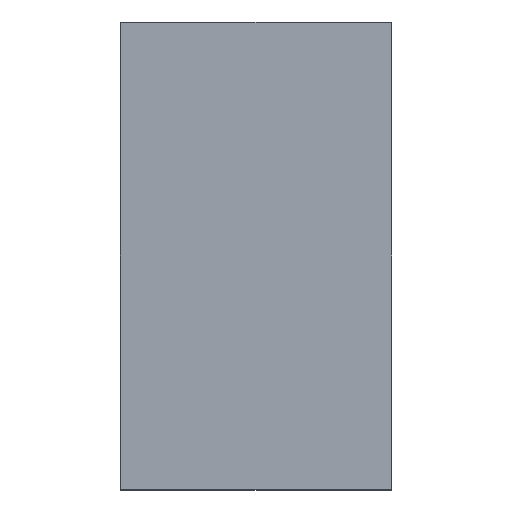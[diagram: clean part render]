
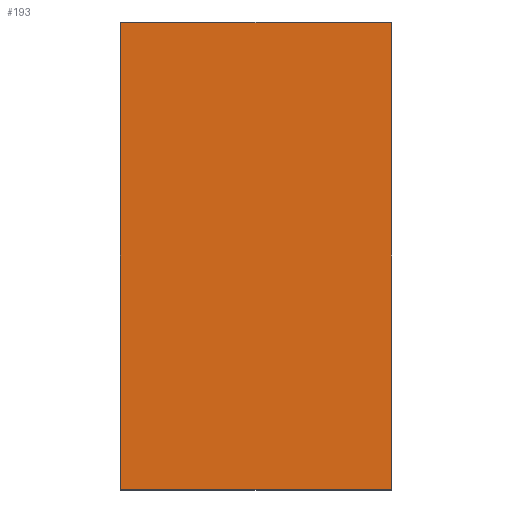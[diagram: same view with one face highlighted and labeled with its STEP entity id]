
A CAD part, front view. The second image highlights one B-rep face of the part: STEP entity #193.
In plain terms, the highlighted planar face has unit normal (0, -1, 0).
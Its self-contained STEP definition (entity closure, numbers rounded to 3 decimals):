
#22 = DIRECTION ( 'NONE',  ( 0., 1., 0. ) ) ;
#34 = CARTESIAN_POINT ( 'NONE',  ( 172., 0., 297. ) ) ;
#50 = ORIENTED_EDGE ( 'NONE', *, *, #269, .T. ) ;
#75 = VERTEX_POINT ( 'NONE', #621 ) ;
#76 = CARTESIAN_POINT ( 'NONE',  ( -172., 0., 297. ) ) ;
#97 = VECTOR ( 'NONE', #223, 1000. ) ;
#109 = VECTOR ( 'NONE', #189, 1000. ) ;
#110 = CARTESIAN_POINT ( 'NONE',  ( 0., 0., 297. ) ) ;
#124 = VERTEX_POINT ( 'NONE', #34 ) ;
#138 = EDGE_LOOP ( 'NONE', ( #530, #539, #50, #483 ) ) ;
#162 = VERTEX_POINT ( 'NONE', #76 ) ;
#163 = DIRECTION ( 'NONE',  ( 0., 0., 1. ) ) ;
#175 = CARTESIAN_POINT ( 'NONE',  ( -172., 0., 0. ) ) ;
#189 = DIRECTION ( 'NONE',  ( 1., 0., 0. ) ) ;
#193 = ADVANCED_FACE ( 'NONE', ( #367 ), #484, .F. ) ;
#202 = VECTOR ( 'NONE', #558, 1000. ) ;
#223 = DIRECTION ( 'NONE',  ( 0., 0., 1. ) ) ;
#236 = VERTEX_POINT ( 'NONE', #345 ) ;
#243 = EDGE_CURVE ( 'NONE', #236, #75, #285, .T. ) ;
#257 = DIRECTION ( 'NONE',  ( -1., 0., 0. ) ) ;
#262 = LINE ( 'NONE', #545, #97 ) ;
#269 = EDGE_CURVE ( 'NONE', #162, #236, #329, .T. ) ;
#285 = LINE ( 'NONE', #536, #109 ) ;
#308 = VECTOR ( 'NONE', #257, 1000. ) ;
#329 = LINE ( 'NONE', #175, #202 ) ;
#345 = CARTESIAN_POINT ( 'NONE',  ( -172., 0., -297. ) ) ;
#350 = EDGE_CURVE ( 'NONE', #75, #124, #262, .T. ) ;
#367 = FACE_OUTER_BOUND ( 'NONE', #138, .T. ) ;
#476 = CARTESIAN_POINT ( 'NONE',  ( 0., 0., 0. ) ) ;
#483 = ORIENTED_EDGE ( 'NONE', *, *, #243, .T. ) ;
#484 = PLANE ( 'NONE',  #588 ) ;
#530 = ORIENTED_EDGE ( 'NONE', *, *, #350, .T. ) ;
#536 = CARTESIAN_POINT ( 'NONE',  ( 0., 0., -297. ) ) ;
#539 = ORIENTED_EDGE ( 'NONE', *, *, #554, .T. ) ;
#545 = CARTESIAN_POINT ( 'NONE',  ( 172., 0., 0. ) ) ;
#554 = EDGE_CURVE ( 'NONE', #124, #162, #574, .T. ) ;
#558 = DIRECTION ( 'NONE',  ( 0., 0., -1. ) ) ;
#574 = LINE ( 'NONE', #110, #308 ) ;
#588 = AXIS2_PLACEMENT_3D ( 'NONE', #476, #22, #163 ) ;
#621 = CARTESIAN_POINT ( 'NONE',  ( 172., 0., -297. ) ) ;
